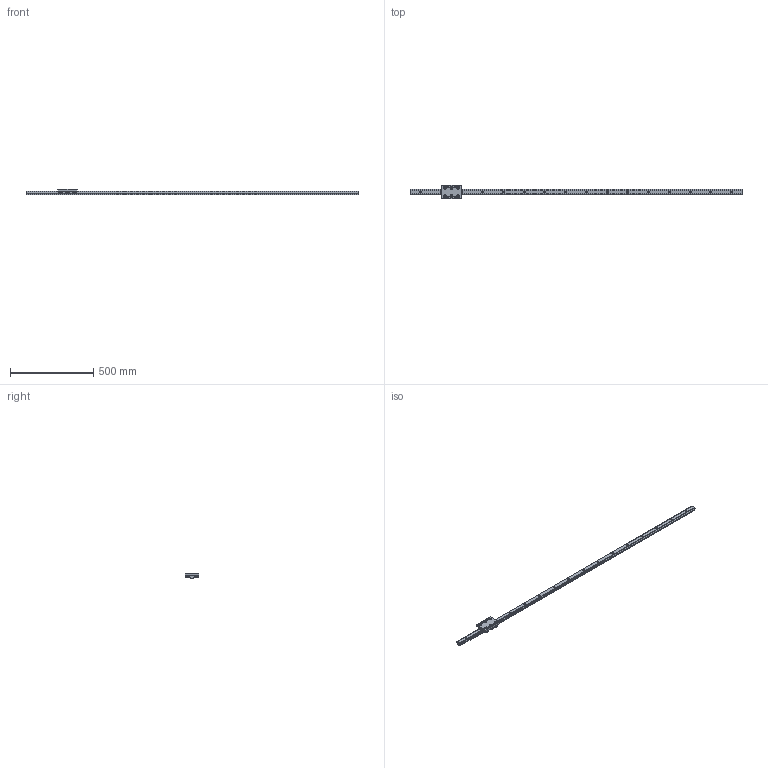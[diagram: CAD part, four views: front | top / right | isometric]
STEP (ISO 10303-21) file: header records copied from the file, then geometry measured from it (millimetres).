
FILE_DESCRIPTION((''),'2;1');
FILE_NAME('C:\Documents and Settings\土屋\My Documents\土屋移動用フォルダ\製品 (図面)\改正SPDRダウンロード用図面\step形式\SPDR30RL.stp','2017-07-18T16:50:06',('y'),(''),'Autodesk Inventor 11','Autodesk Inventor 11','');
FILE_SCHEMA(('AUTOMOTIVE_DESIGN { 1 0 10303 214 1 1 1 1 }'));
Length unit declared in the file: millimetre
Products named in the file (3): SPDR30RL; SPDR30RLレール; SPDR30RLキャリッジ
Assembly tree (2 placements, depth 2):
  SPDR30RL
    SPDR30RLレール
    SPDR30RLキャリッジ
Bounding box: 2000 x 80 x 35.5 mm (x, y, z)
Volume: 1165452.1 mm3; surface area: 242926.9 mm2
Topology: 2 solids, 2 shells, 276 faces, 592 edges, 372 vertices
Faces by surface type: plane 92, cone 72, bspline 70, cylinder 42
Full cylindrical faces by diameter (mm): 6 x6, 12.3 x6, 16 x6, 24 x12
Entity records: 7932 total; most frequent: CARTESIAN_POINT 2683, DIRECTION 1016, ORIENTED_EDGE 996, EDGE_CURVE 498, AXIS2_PLACEMENT_3D 451, EDGE_LOOP 446, VERTEX_POINT 356, FACE_OUTER_BOUND 276
